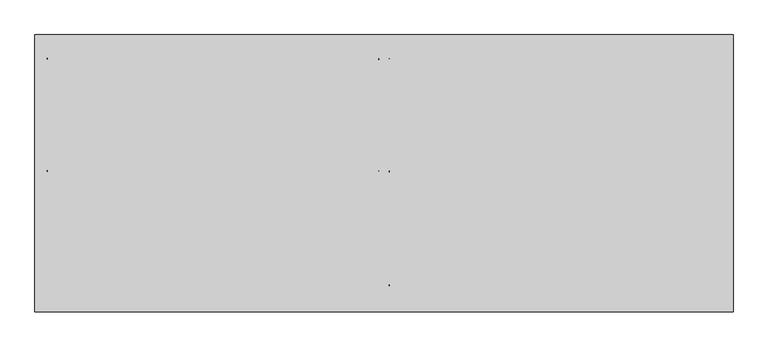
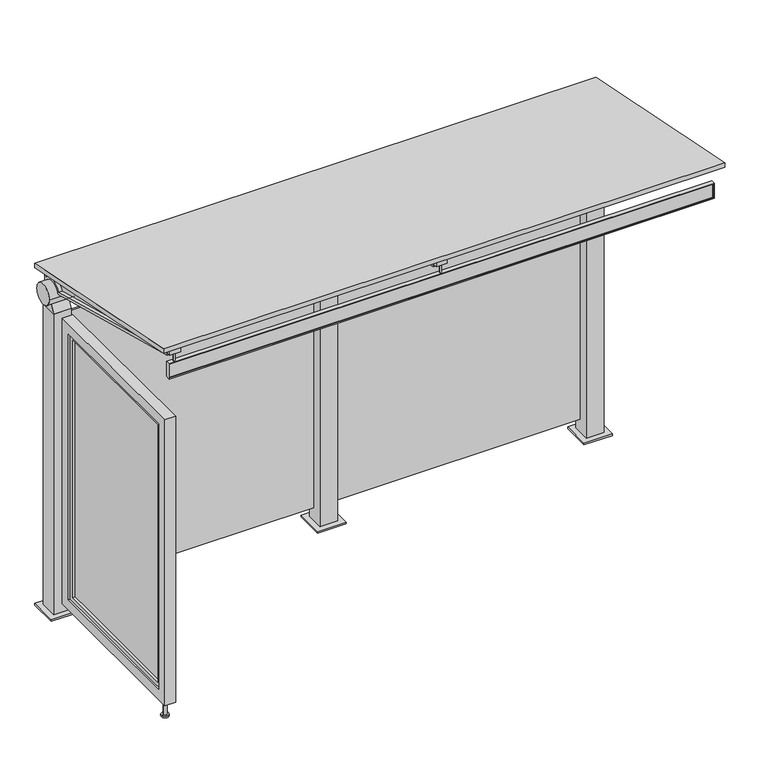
"""IFC4 building model written with IfcOpenShell, lengths in millimetres: geographic element geometry, Abri voyageur : Abri voyageur."""

from ifc_helpers import new_model, si_unit, point, frame, frame_2d, origin, origin_with_axes, place, context, project, spatial, polyline, circle_curve, trimmed, segment, composite_curve, outline, extrude, faceted_brep, source, transform, mapped, element, save


def geographic_element_a0ee1f22(model_context):
    return source(origin(), model_context, "Body", "SolidModel", [
        extrude(outline(composite_curve([segment(trimmed(circle_curve(frame_2d((550.0, 1900.0)), 60.0), [point((523.1671843, 1846.3343685))], [point((576.8328157, 1846.3343685))], True, "CARTESIAN"), True, "CONTINUOUS"), segment(polyline([(576.8328157, 1846.3343685), (600.0, 1800.0), (500.0, 1800.0), (523.1671843, 1846.3343685)]), True, "CONTINUOUS")], self_intersect=False)), frame((1450.0, 0.0, 0.0), z_axis=(1.0, 0.0, 0.0), x_axis=(0.0, 1.0, 0.0)), (0.0, 0.0, 1.0), 100.0),
        extrude(outline(composite_curve([segment(trimmed(circle_curve(frame_2d((-1500.0, -587.5)), 5.0), [point((-1505.0, -587.5))], [point((-1495.0, -587.5))], False, "CARTESIAN"), True, "CONTINUOUS"), segment(trimmed(circle_curve(frame_2d((-1500.0, -587.5)), 5.0), [point((-1495.0, -587.5))], [point((-1505.0, -587.5))], False, "CARTESIAN"), True, "CONTINUOUS")], self_intersect=False)), frame((0.0, 0.0, 2165.7400707), z_axis=(0.0, 0.0, 1.0), x_axis=(1.0, 0.0, 0.0)), (0.0, 0.0, 1.0), 50.0),
        extrude(outline(composite_curve([segment(trimmed(circle_curve(frame_2d((0.0, -25.0)), 25.0), [point((0.0, -50.0000001))], [point((0.0, 0.0))], False, "CARTESIAN"), True, "CONTINUOUS"), segment(trimmed(circle_curve(frame_2d((0.0, -25.0)), 25.0), [point((0.0, 0.0))], [point((0.0, -50.0000001))], False, "CARTESIAN"), True, "CONTINUOUS")], self_intersect=False)), frame((-1500.0, -526.4766849, 2230.9305423), z_axis=(0.0, 0.19746037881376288, 0.9803108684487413), x_axis=(-1.0, 0.0, 0.0)), (0.0, 0.0, 1.0), 10.0),
        extrude(outline(composite_curve([segment(trimmed(circle_curve(frame_2d((0.0, -550.2134992)), 25.0), [point((0.0, -575.2134991))], [point((0.0, -525.2134992))], False, "CARTESIAN"), True, "CONTINUOUS"), segment(trimmed(circle_curve(frame_2d((0.0, -550.2134992)), 25.0), [point((0.0, -525.2134992))], [point((0.0, -575.2134991))], False, "CARTESIAN"), True, "CONTINUOUS")], self_intersect=False)), frame((-1500.0, -526.4766849, 2230.9305423), z_axis=(0.0, 0.19746037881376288, 0.9803108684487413), x_axis=(-1.0, 0.0, 0.0)), (0.0, 0.0, 1.0), 10.0),
        extrude(outline(composite_curve([segment(trimmed(circle_curve(frame_2d((0.0, -1069.503187)), 25.0), [point((0.0, -1094.503187))], [point((0.0, -1044.5031869))], False, "CARTESIAN"), True, "CONTINUOUS"), segment(trimmed(circle_curve(frame_2d((0.0, -1069.503187)), 25.0), [point((0.0, -1044.5031869))], [point((0.0, -1094.503187))], False, "CARTESIAN"), True, "CONTINUOUS")], self_intersect=False)), frame((-1500.0, -526.4766849, 2230.9305423), z_axis=(0.0, 0.19746037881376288, 0.9803108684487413), x_axis=(-1.0, 0.0, 0.0)), (0.0, 0.0, 1.0), 10.0),
        extrude(outline(composite_curve([segment(polyline([(605.0, 1987.7201256), (605.0, 1950.9901951)]), True, "CONTINUOUS"), segment(trimmed(circle_curve(frame_2d((550.0, 1900.0)), 75.0), [point((605.0, 1950.9901951))], [point((482.9015236, 1933.5081253))], True, "CARTESIAN"), True, "CONTINUOUS"), segment(polyline([(482.9015236, 1933.5081253), (-450.0, 2183.4783351), (-450.0, 2200.2248589), (605.0, 1987.7201256)]), True, "CONTINUOUS")], self_intersect=False)), frame((-1510.0, 0.0, 0.0), z_axis=(1.0, 0.0, 0.0), x_axis=(0.0, 1.0, 0.0)), (0.0, 0.0, 1.0), 20.0),
        extrude(outline(composite_curve([segment(polyline([(-575.0, 2201.4428415), (-575.0, 2215.7400707), (-600.0, 2215.7400707), (-600.0, 2245.7400707), (620.0, 2000.0), (620.0, 1900.0), (610.0, 1900.0)]), True, "CONTINUOUS"), segment(trimmed(circle_curve(frame_2d((550.0, 1900.0)), 60.0), [point((610.0, 1900.0))], [point((492.0444504, 1915.5291427))], True, "CARTESIAN"), True, "CONTINUOUS"), segment(polyline([(492.0444504, 1915.5291427), (-575.0, 2201.4428415)]), True, "CONTINUOUS")], self_intersect=False), holes=[composite_curve([segment(trimmed(circle_curve(frame_2d((550.0, 1900.0)), 75.0), [point((482.9015236, 1933.5081253))], [point((605.0, 1950.9901951))], False, "CARTESIAN"), True, "CONTINUOUS"), segment(polyline([(605.0, 1950.9901951), (605.0, 1987.7201256), (-450.0, 2200.2248589), (-450.0, 2183.4783351), (482.9015236, 1933.5081253)]), True, "CONTINUOUS")], self_intersect=False)]), frame((-1530.0, 0.0, 0.0), z_axis=(1.0, 0.0, 0.0), x_axis=(0.0, 1.0, 0.0)), (0.0, 0.0, 1.0), 60.0),
        extrude(outline(composite_curve([segment(trimmed(circle_curve(frame_2d((550.0, 1900.0)), 60.0), [point((523.1671843, 1846.3343685))], [point((576.8328157, 1846.3343685))], True, "CARTESIAN"), True, "CONTINUOUS"), segment(polyline([(576.8328157, 1846.3343685), (600.0, 1800.0), (500.0, 1800.0), (523.1671843, 1846.3343685)]), True, "CONTINUOUS")], self_intersect=False)), frame((-1550.0, 0.0, 0.0), z_axis=(1.0, 0.0, 0.0), x_axis=(0.0, 1.0, 0.0)), (0.0, 0.0, 1.0), 100.0),
        extrude(outline(composite_curve([segment(trimmed(circle_curve(frame_2d((0.0, -587.5)), 5.0), [point((-5.0, -587.5))], [point((5.0, -587.5))], False, "CARTESIAN"), True, "CONTINUOUS"), segment(trimmed(circle_curve(frame_2d((0.0, -587.5)), 5.0), [point((5.0, -587.5))], [point((-5.0, -587.5))], False, "CARTESIAN"), True, "CONTINUOUS")], self_intersect=False)), frame((0.0, 0.0, 2165.7400707), z_axis=(0.0, 0.0, 1.0), x_axis=(1.0, 0.0, 0.0)), (0.0, 0.0, 1.0), 50.0),
        extrude(outline(composite_curve([segment(trimmed(circle_curve(frame_2d((0.0, -25.0)), 25.0), [point((0.0, -50.0000001))], [point((0.0, 0.0))], False, "CARTESIAN"), True, "CONTINUOUS"), segment(trimmed(circle_curve(frame_2d((0.0, -25.0)), 25.0), [point((0.0, 0.0))], [point((0.0, -50.0000001))], False, "CARTESIAN"), True, "CONTINUOUS")], self_intersect=False)), frame((0.0, -526.4766849, 2230.9305423), z_axis=(0.0, 0.19746037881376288, 0.9803108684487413), x_axis=(-1.0, 0.0, 0.0)), (0.0, 0.0, 1.0), 10.0),
        extrude(outline(composite_curve([segment(trimmed(circle_curve(frame_2d((0.0, -550.2134992)), 25.0), [point((0.0, -575.2134991))], [point((0.0, -525.2134992))], False, "CARTESIAN"), True, "CONTINUOUS"), segment(trimmed(circle_curve(frame_2d((0.0, -550.2134992)), 25.0), [point((0.0, -525.2134992))], [point((0.0, -575.2134991))], False, "CARTESIAN"), True, "CONTINUOUS")], self_intersect=False)), frame((0.0, -526.4766849, 2230.9305423), z_axis=(0.0, 0.19746037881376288, 0.9803108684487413), x_axis=(-1.0, 0.0, 0.0)), (0.0, 0.0, 1.0), 10.0),
        extrude(outline(composite_curve([segment(trimmed(circle_curve(frame_2d((0.0, -1069.503187)), 25.0), [point((0.0, -1094.503187))], [point((0.0, -1044.5031869))], False, "CARTESIAN"), True, "CONTINUOUS"), segment(trimmed(circle_curve(frame_2d((0.0, -1069.503187)), 25.0), [point((0.0, -1044.5031869))], [point((0.0, -1094.503187))], False, "CARTESIAN"), True, "CONTINUOUS")], self_intersect=False)), frame((0.0, -526.4766849, 2230.9305423), z_axis=(0.0, 0.19746037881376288, 0.9803108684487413), x_axis=(-1.0, 0.0, 0.0)), (0.0, 0.0, 1.0), 10.0),
        extrude(outline(composite_curve([segment(polyline([(605.0, 1987.7201256), (605.0, 1950.9901951)]), True, "CONTINUOUS"), segment(trimmed(circle_curve(frame_2d((550.0, 1900.0)), 75.0), [point((605.0, 1950.9901951))], [point((482.9015236, 1933.5081253))], True, "CARTESIAN"), True, "CONTINUOUS"), segment(polyline([(482.9015236, 1933.5081253), (-450.0, 2183.4783351), (-450.0, 2200.2248589), (605.0, 1987.7201256)]), True, "CONTINUOUS")], self_intersect=False)), frame((-10.0, 0.0, 0.0), z_axis=(1.0, 0.0, 0.0), x_axis=(0.0, 1.0, 0.0)), (0.0, 0.0, 1.0), 20.0),
        extrude(outline(composite_curve([segment(polyline([(-575.0, 2201.4428415), (-575.0, 2215.7400707), (-600.0, 2215.7400707), (-600.0, 2245.7400707), (620.0, 2000.0), (620.0, 1900.0), (610.0, 1900.0)]), True, "CONTINUOUS"), segment(trimmed(circle_curve(frame_2d((550.0, 1900.0)), 60.0), [point((610.0, 1900.0))], [point((492.0444504, 1915.5291427))], True, "CARTESIAN"), True, "CONTINUOUS"), segment(polyline([(492.0444504, 1915.5291427), (-575.0, 2201.4428415)]), True, "CONTINUOUS")], self_intersect=False), holes=[composite_curve([segment(trimmed(circle_curve(frame_2d((550.0, 1900.0)), 75.0), [point((482.9015236, 1933.5081253))], [point((605.0, 1950.9901951))], False, "CARTESIAN"), True, "CONTINUOUS"), segment(polyline([(605.0, 1950.9901951), (605.0, 1987.7201256), (-450.0, 2200.2248589), (-450.0, 2183.4783351), (482.9015236, 1933.5081253)]), True, "CONTINUOUS")], self_intersect=False)]), frame((-30.0, 0.0, 0.0), z_axis=(1.0, 0.0, 0.0), x_axis=(0.0, 1.0, 0.0)), (0.0, 0.0, 1.0), 60.0),
        extrude(outline(composite_curve([segment(trimmed(circle_curve(frame_2d((550.0, 1900.0)), 60.0), [point((523.1671843, 1846.3343685))], [point((576.8328157, 1846.3343685))], True, "CARTESIAN"), True, "CONTINUOUS"), segment(polyline([(576.8328157, 1846.3343685), (600.0, 1800.0), (500.0, 1800.0), (523.1671843, 1846.3343685)]), True, "CONTINUOUS")], self_intersect=False)), frame((-50.0, 0.0, 0.0), z_axis=(1.0, 0.0, 0.0), x_axis=(0.0, 1.0, 0.0)), (0.0, 0.0, 1.0), 100.0),
        extrude(outline(polyline([(-1506.0, -475.0), (-1506.0, 375.0), (-1494.0, 375.0), (-1494.0, -475.0), (-1506.0, -475.0)])), frame((0.0, 0.0, 175.0), z_axis=(0.0, 0.0, 1.0), x_axis=(1.0, 0.0, 0.0)), (0.0, 0.0, 1.0), 1550.0),
        faceted_brep([(-1494.0, 365.0, 185.0), (-1480.0, 365.0, 185.0), (-1480.0, 365.0, 1715.0), (-1494.0, 365.0, 1715.0), (-1506.0, 375.0, 175.0), (-1494.0, 375.0, 175.0), (-1494.0, 375.0, 1725.0), (-1506.0, 375.0, 1725.0), (-1520.0, 365.0, 185.0), (-1506.0, 365.0, 185.0), (-1506.0, 365.0, 1715.0), (-1520.0, 365.0, 1715.0), (-1480.0, 390.0, 160.0), (-1520.0, 390.0, 160.0), (-1520.0, 390.0, 1740.0), (-1480.0, 390.0, 1740.0), (-1480.0, -465.0, 1715.0), (-1494.0, -465.0, 1715.0), (-1494.0, -475.0, 1725.0), (-1506.0, -475.0, 1725.0), (-1506.0, -465.0, 1715.0), (-1520.0, -465.0, 1715.0), (-1520.0, -490.0, 1740.0), (-1480.0, -490.0, 1740.0), (-1480.0, -465.0, 185.0), (-1494.0, -465.0, 185.0), (-1494.0, -475.0, 175.0), (-1506.0, -475.0, 175.0), (-1506.0, -465.0, 185.0), (-1520.0, -465.0, 185.0), (-1520.0, -490.0, 160.0), (-1480.0, -490.0, 160.0)], [[[0, 1, 2, 3]], [[4, 5, 6, 7]], [[8, 9, 10, 11]], [[12, 13, 14, 15]], [[3, 2, 16, 17]], [[7, 6, 18, 19]], [[11, 10, 20, 21]], [[15, 14, 22, 23]], [[17, 16, 24, 25]], [[19, 18, 26, 27]], [[21, 20, 28, 29]], [[23, 22, 30, 31]], [[15, 23, 31, 12], [1, 24, 16, 2]], [[25, 24, 1, 0]], [[5, 26, 18, 6], [3, 17, 25, 0]], [[27, 26, 5, 4]], [[7, 19, 27, 4], [9, 28, 20, 10]], [[29, 28, 9, 8]], [[13, 30, 22, 14], [11, 21, 29, 8]], [[31, 30, 13, 12]]]),
        extrude(outline(composite_curve([segment(trimmed(circle_curve(frame_2d((-1500.0, -500.0)), 10.0), [point((-1510.0, -500.0))], [point((-1490.0, -500.0))], False, "CARTESIAN"), True, "CONTINUOUS"), segment(trimmed(circle_curve(frame_2d((-1500.0, -500.0)), 10.0), [point((-1490.0, -500.0))], [point((-1510.0, -500.0))], False, "CARTESIAN"), True, "CONTINUOUS")], self_intersect=False)), frame((0.0, 0.0, 5.0), z_axis=(0.0, 0.0, 1.0), x_axis=(1.0, 0.0, 0.0)), (0.0, 0.0, 1.0), 95.0),
        extrude(outline(composite_curve([segment(trimmed(circle_curve(frame_2d((-1500.0, -500.0)), 20.0), [point((-1520.0, -500.0))], [point((-1480.0, -500.0))], False, "CARTESIAN"), True, "CONTINUOUS"), segment(trimmed(circle_curve(frame_2d((-1500.0, -500.0)), 20.0), [point((-1480.0, -500.0))], [point((-1520.0, -500.0))], False, "CARTESIAN"), True, "CONTINUOUS")], self_intersect=False)), origin_with_axes(), (0.0, 0.0, 1.0), 10.0),
        extrude(outline(polyline([(-550.0, 1800.0), (450.0, 1800.0), (450.0, 100.0), (-550.0, 100.0), (-550.0, 1800.0)]), holes=[polyline([(-490.0, 160.0), (390.0, 160.0), (390.0, 1740.0), (-490.0, 1740.0), (-490.0, 160.0)])]), frame((-1530.0, 0.0, 0.0), z_axis=(1.0, 0.0, 0.0), x_axis=(0.0, 1.0, 0.0)), (0.0, 0.0, 1.0), 60.0),
        extrude(outline(polyline([(-60.0, 545.0), (-1440.0, 545.0), (-1440.0, 555.0), (-60.0, 555.0), (-60.0, 545.0)])), frame((0.0, 0.0, 100.0), z_axis=(0.0, 0.0, 1.0), x_axis=(1.0, 0.0, 0.0)), (0.0, 0.0, 1.0), 1650.0),
        extrude(outline(polyline([(1440.0, 545.0), (60.0, 545.0), (60.0, 555.0), (1440.0, 555.0), (1440.0, 545.0)])), frame((0.0, 0.0, 100.0), z_axis=(0.0, 0.0, 1.0), x_axis=(1.0, 0.0, 0.0)), (0.0, 0.0, 1.0), 1650.0),
        extrude(outline(polyline([(2165.7400707, 1535.0), (2165.7400707, -1535.0), (2075.7400707, -1535.0), (2075.7400707, 1535.0), (2165.7400707, 1535.0)]), holes=[polyline([(2080.7400707, 1530.0), (2080.7400707, -1530.0), (2160.7400707, -1530.0), (2160.7400707, 1530.0), (2080.7400707, 1530.0)])]), frame((0.0, -600.0, 0.0), z_axis=(0.0, 1.0, 0.0), x_axis=(0.0, 0.0, 1.0)), (0.0, 0.0, 1.0), 25.0),
        extrude(outline(polyline([(-1420.0, 630.0), (-1420.0, 470.0), (-1580.0, 470.0), (-1580.0, 630.0), (-1420.0, 630.0)])), origin_with_axes(), (0.0, 0.0, 1.0), 10.0),
        extrude(outline(polyline([(80.0, 630.0), (80.0, 470.0), (-80.0, 470.0), (-80.0, 630.0), (80.0, 630.0)])), origin_with_axes(), (0.0, 0.0, 1.0), 10.0),
        extrude(outline(polyline([(1580.0, 630.0), (1580.0, 470.0), (1420.0, 470.0), (1420.0, 630.0), (1580.0, 630.0)])), origin_with_axes(), (0.0, 0.0, 1.0), 10.0),
        extrude(outline(polyline([(-1530.0, -595.0), (-1530.0, -580.0), (1530.0, -580.0), (1530.0, -595.0), (-1530.0, -595.0)])), frame((0.0, 0.0, 2080.7400707), z_axis=(0.0, 0.0, 1.0), x_axis=(1.0, 0.0, 0.0)), (0.0, 0.0, 1.0), 80.0),
        extrude(outline(composite_curve([segment(trimmed(circle_curve(frame_2d((550.0, 1900.0)), 60.0), [point((490.0, 1900.0))], [point((610.0, 1900.0))], False, "CARTESIAN"), True, "CONTINUOUS"), segment(trimmed(circle_curve(frame_2d((550.0, 1900.0)), 60.0), [point((610.0, 1900.0))], [point((490.0, 1900.0))], False, "CARTESIAN"), True, "CONTINUOUS")], self_intersect=False)), frame((-1580.0, 0.0, 0.0), z_axis=(1.0, 0.0, 0.0), x_axis=(0.0, 1.0, 0.0)), (0.0, 0.0, 1.0), 3160.0),
        extrude(outline(polyline([(-1450.0, 600.0), (-1450.0, 500.0), (-1550.0, 500.0), (-1550.0, 600.0), (-1450.0, 600.0)])), frame((0.0, 0.0, 10.0), z_axis=(0.0, 0.0, 1.0), x_axis=(1.0, 0.0, 0.0)), (0.0, 0.0, 1.0), 1790.0),
        extrude(outline(polyline([(50.0, 600.0), (50.0, 500.0), (-50.0, 500.0), (-50.0, 600.0), (50.0, 600.0)])), frame((0.0, 0.0, 10.0), z_axis=(0.0, 0.0, 1.0), x_axis=(1.0, 0.0, 0.0)), (0.0, 0.0, 1.0), 1790.0),
        extrude(outline(polyline([(1550.0, 600.0), (1550.0, 500.0), (1450.0, 500.0), (1450.0, 600.0), (1550.0, 600.0)])), frame((0.0, 0.0, 10.0), z_axis=(0.0, 0.0, 1.0), x_axis=(1.0, 0.0, 0.0)), (0.0, 0.0, 1.0), 1790.0),
        extrude(outline(polyline([(-625.0, 2260.9765737), (-625.0, 2286.4786882), (630.0, 2033.6886974), (630.0, 2008.1865829), (-625.0, 2260.9765737)])), frame((-1580.0, 0.0, 0.0), z_axis=(1.0, 0.0, 0.0), x_axis=(0.0, 1.0, 0.0)), (0.0, 0.0, 1.0), 3160.0),
    ])


if __name__ == "__main__":
    model = new_model("IFC4")
    model_context = context("Model", 3, world=origin())
    ifc_project = project(units=[si_unit("LENGTHUNIT", "METRE", prefix="MILLI")], contexts=[model_context])
    site = spatial("IfcSite", under=ifc_project)
    building = spatial("IfcBuilding", under=site)
    placement = place(None, origin())
    geographic_element_shape = geographic_element_a0ee1f22(model_context)
    element("IfcGeographicElement", 1, ObjectType="Abri voyageur : Abri voyageur", at=placement, inside=building, context=model_context, shape_type="MappedRepresentation", body=[
        mapped(geographic_element_shape, transform((0.0, 0.0, 0.0), x_axis=(1.0, 0.0, 0.0), y_axis=(0.0, 1.0, 0.0), z_axis=(0.0, 0.0, 1.0))),
    ])
    save(model, "model.ifc")
